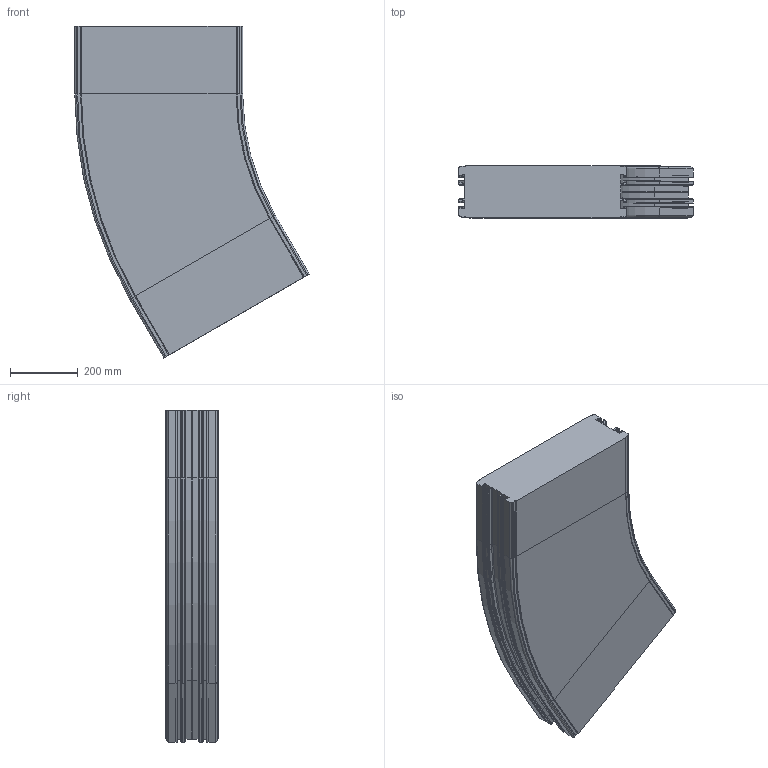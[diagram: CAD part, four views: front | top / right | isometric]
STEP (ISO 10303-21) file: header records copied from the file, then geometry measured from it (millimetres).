
FILE_DESCRIPTION (( 'STEP AP214' ), '1' );
FILE_NAME ('F2-1800-C960-30.STEP', '2016-02-16T13:16:33', ( '' ), ( '' ), 'SwSTEP 2.0', 'SolidWorks 2014', '' );
FILE_SCHEMA (( 'AUTOMOTIVE_DESIGN' ));
Length unit declared in the file: millimetre
Products named in the file (1): F2-1800-C960-30
Bounding box: 689.52 x 153.4 x 976.71 mm (x, y, z)
Volume: 65645831.8 mm3; surface area: 1666623.1 mm2
Topology: 1 solids, 1 shells, 644 faces, 1498 edges, 856 vertices
Faces by surface type: plane 300, cylinder 244, torus 92, cone 8
Entity records: 17974 total; most frequent: DIRECTION 3370, CARTESIAN_POINT 2999, ORIENTED_EDGE 2996, EDGE_CURVE 1498, AXIS2_PLACEMENT_3D 1227, VECTOR 916, LINE 916, VERTEX_POINT 856
